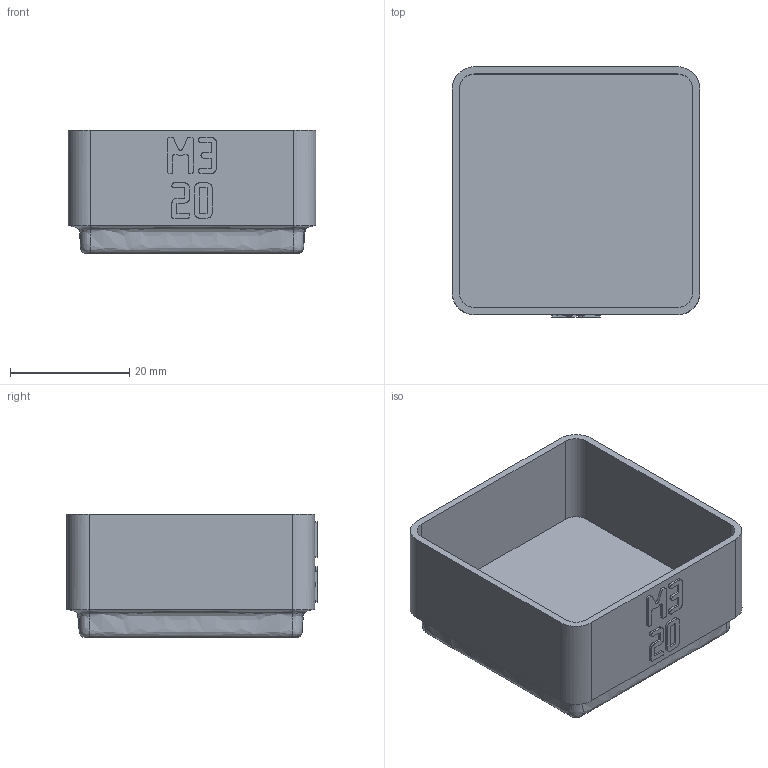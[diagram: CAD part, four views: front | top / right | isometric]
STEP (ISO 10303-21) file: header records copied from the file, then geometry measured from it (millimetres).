
FILE_DESCRIPTION(('Open CASCADE Model'),'2;1');
FILE_NAME('Open CASCADE Shape Model','2026-11-03T15:27:36',('Author'),( 'Open CASCADE'),'Open CASCADE STEP processor 8.0','build123d', 'Unknown');
FILE_SCHEMA(('AUTOMOTIVE_DESIGN { 1 0 10303 214 1 1 1 1 }'));
Length unit declared in the file: millimetre
Products named in the file (1): COMPOUND
Bounding box: 41.5 x 41.9 x 20.75 mm (x, y, z)
Volume: 9644.9 mm3; surface area: 8977.8 mm2
Topology: 1 solids, 1 shells, 444 faces, 1300 edges, 864 vertices
Faces by surface type: plane 428, bspline 8, cylinder 8
Entity records: 30926 total; most frequent: CARTESIAN_POINT 6621, DIRECTION 3906, LINE 3004, VECTOR 3004, ORIENTED_EDGE 2600, PCURVE 2600, DEFINITIONAL_REPRESENTATION 2600, EDGE_CURVE 1300
